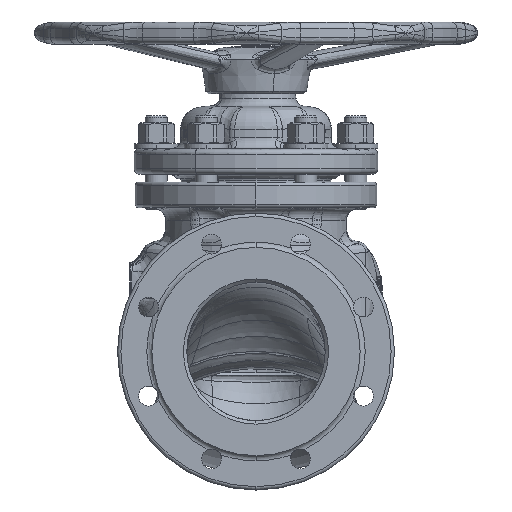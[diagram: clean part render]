
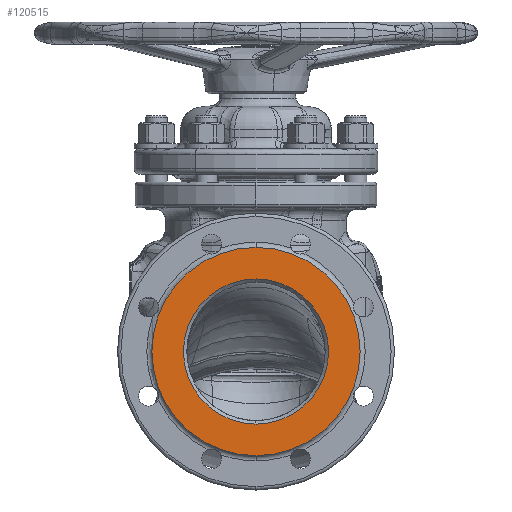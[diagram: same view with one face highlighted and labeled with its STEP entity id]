
A CAD part, left-side view. The second image highlights one B-rep face of the part: STEP entity #120515.
In plain terms, the highlighted planar face has unit normal (-1, 0, 0).
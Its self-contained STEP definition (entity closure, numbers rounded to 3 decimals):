
#22507=CARTESIAN_POINT('',(-200.,0.,0.));
#22508=DIRECTION('',(-1.,0.,0.));
#22509=DIRECTION('',(0.,0.,1.));
#22510=AXIS2_PLACEMENT_3D('',#22507,#22508,#22509);
#22512=CARTESIAN_POINT('',(-200.,0.,0.));
#22513=DIRECTION('',(-1.,0.,0.));
#22514=DIRECTION('',(0.,0.,-1.));
#22515=AXIS2_PLACEMENT_3D('',#22512,#22513,#22514);
#22709=CARTESIAN_POINT('',(-200.,0.,0.));
#22710=DIRECTION('',(-1.,0.,0.));
#22711=DIRECTION('',(0.,0.,1.));
#22712=AXIS2_PLACEMENT_3D('',#22709,#22710,#22711);
#59961=CARTESIAN_POINT('',(-200.,0.,0.));
#59962=DIRECTION('',(-1.,0.,0.));
#59963=DIRECTION('',(0.,0.,-1.));
#59964=AXIS2_PLACEMENT_3D('',#59961,#59962,#59963);
#70164=CARTESIAN_POINT('',(-200.,0.,94.));
#70165=CARTESIAN_POINT('',(-200.,0.,-94.));
#70166=VERTEX_POINT('',#70164);
#70167=VERTEX_POINT('',#70165);
#70176=CARTESIAN_POINT('',(-200.,0.,65.5));
#70177=CARTESIAN_POINT('',(-200.,0.,-65.5));
#70178=VERTEX_POINT('',#70176);
#70179=VERTEX_POINT('',#70177);
#120499=CARTESIAN_POINT('',(-200.,0.,0.));
#120500=DIRECTION('',(-1.,0.,0.));
#120501=DIRECTION('',(0.,0.,1.));
#120502=AXIS2_PLACEMENT_3D('',#120499,#120500,#120501);
#120503=PLANE('',#120502);
#120505=ORIENTED_EDGE('',*,*,#120504,.F.);
#120507=ORIENTED_EDGE('',*,*,#120506,.F.);
#120508=EDGE_LOOP('',(#120505,#120507));
#120509=FACE_OUTER_BOUND('',#120508,.F.);
#120510=ORIENTED_EDGE('',*,*,#120485,.T.);
#120512=ORIENTED_EDGE('',*,*,#120511,.T.);
#120513=EDGE_LOOP('',(#120510,#120512));
#120514=FACE_BOUND('',#120513,.F.);
#120515=ADVANCED_FACE('',(#120509,#120514),#120503,.T.);
#22511=CIRCLE('',#22510,65.5);
#22516=CIRCLE('',#22515,65.5);
#22713=CIRCLE('',#22712,94.);
#59965=CIRCLE('',#59964,94.);
#120485=EDGE_CURVE('',#70178,#70179,#22511,.T.);
#120504=EDGE_CURVE('',#70166,#70167,#22713,.T.);
#120506=EDGE_CURVE('',#70167,#70166,#59965,.T.);
#120511=EDGE_CURVE('',#70179,#70178,#22516,.T.);
